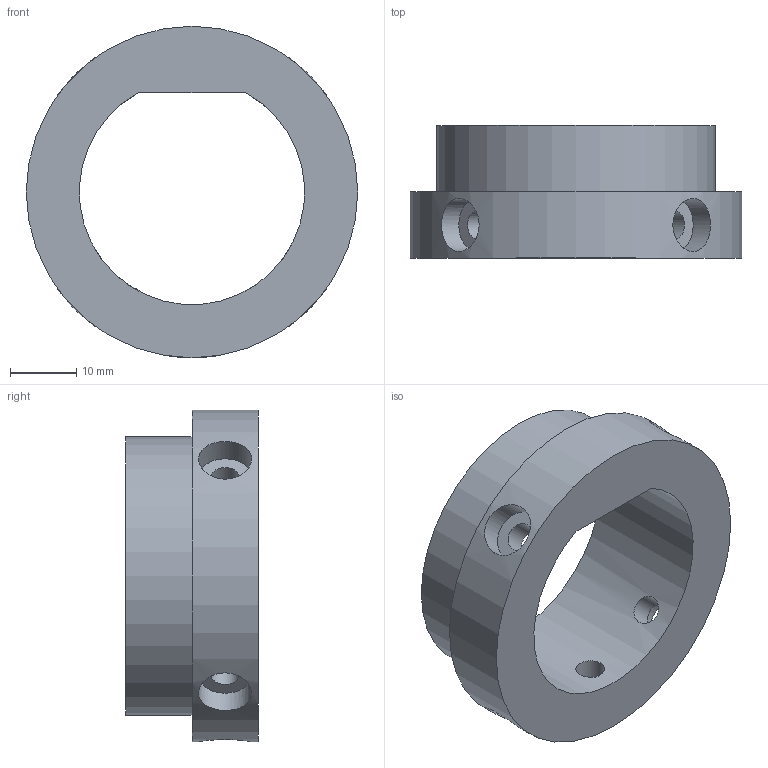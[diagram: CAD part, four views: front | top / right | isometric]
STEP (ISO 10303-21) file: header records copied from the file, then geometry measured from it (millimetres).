
FILE_DESCRIPTION (( 'STEP AP214' ), '1' );
FILE_NAME ('蟀諉璃.STEP', '2026-06-25T12:40:09', ( '' ), ( '' ), 'SwSTEP 2.0', 'SolidWorks 2022', '' );
FILE_SCHEMA (( 'AUTOMOTIVE_DESIGN' ));
Length unit declared in the file: millimetre
Products named in the file (1): 连接件
Bounding box: 50 x 20 x 50 mm (x, y, z)
Volume: 14484.3 mm3; surface area: 7778.7 mm2
Topology: 1 solids, 1 shells, 22 faces, 43 edges, 29 vertices
Faces by surface type: cylinder 13, plane 9
Full cylindrical faces by diameter (mm): 4.3 x5, 8 x5, 42 x1, 50 x1
Entity records: 1130 total; most frequent: CARTESIAN_POINT 671, DIRECTION 82, ORIENTED_EDGE 60, EDGE_LOOP 52, AXIS2_PLACEMENT_3D 39, FACE_OUTER_BOUND 34, EDGE_CURVE 30, VERTEX_POINT 28
